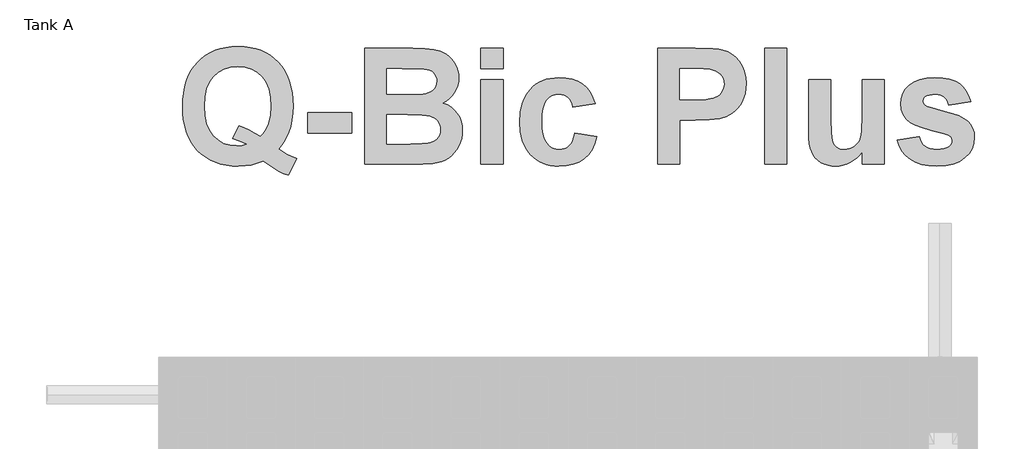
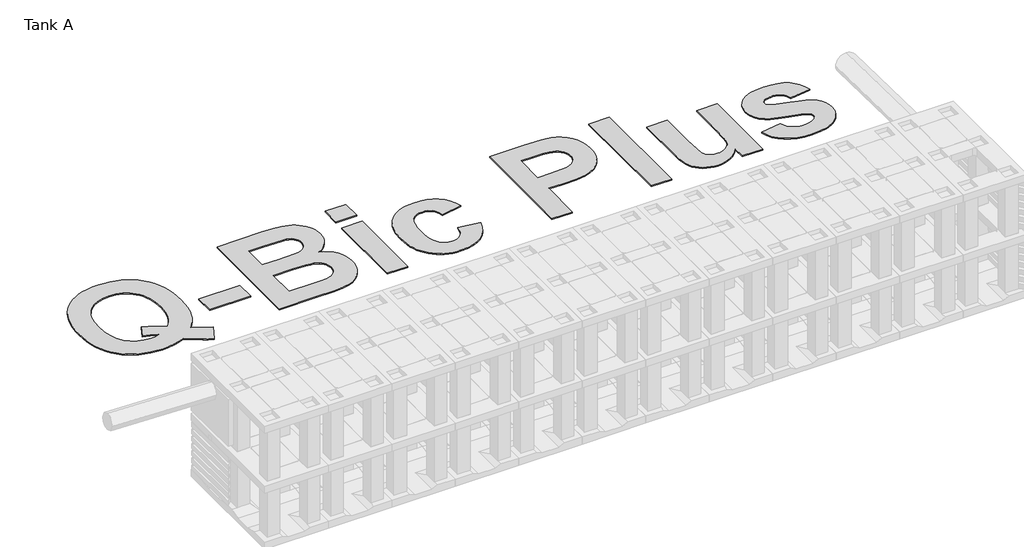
# One storey, part 6 of 6: 1 proxy.
"""IFC4 building model written with IfcOpenShell, lengths in millimetres."""

from ifc_helpers import new_model, si_unit, frame, origin, place, context, project, spatial, polyline, outline, extrude, element, save

model = new_model("IFC4")

# Units and contexts
model_context = context("Model", 3, world=origin())
ifc_project = project(units=[si_unit("LENGTHUNIT", "METRE", prefix="MILLI")], contexts=[model_context])

# Site, building, storey
site = spatial("IfcSite", under=ifc_project)
building = spatial("IfcBuilding", under=site)
storey = spatial("IfcBuildingStorey", under=building, Name="Tank A", Elevation=-2300.0)

# Proxy
placement = place(None, origin())
element("IfcBuildingElementProxy", 1, Name="Arial", ObjectType="Arial", at=placement, inside=storey, context=model_context, shape_type="SweptSolid", body=[
    extrude(outline(polyline([(3539.706878, 11795.5070729), (3616.7577181, 11747.1130724), (3700.1345714, 11709.7263347), (3626.2467378, 11563.9749918), (3581.3953046, 11579.6635044), (3537.4295133, 11600.4128275), (3404.0771562, 11688.21789), (3353.7853517, 11669.2872956), (3300.8366217, 11655.7654426), (3245.2309661, 11647.6523307), (3186.9683851, 11644.9479601), (3130.9634, 11647.1067121), (3078.0818838, 11653.582968), (3028.3238367, 11664.3767279), (2981.6892585, 11679.4879918), (2938.1781494, 11698.9167597), (2897.7905092, 11722.6630316), (2860.526338, 11750.7268074), (2826.3856358, 11783.1080872), (2795.8428536, 11819.3956801), (2769.3724424, 11859.1783952), (2746.9744021, 11902.4562326), (2728.6487328, 11949.2291923), (2714.3954344, 11999.4972743), (2704.214507, 12053.2604785), (2698.1059505, 12110.518805), (2696.0697651, 12171.2722537), (2698.1217656, 12231.853714), (2704.2777671, 12288.9756358), (2714.5377697, 12342.6380192), (2728.9017733, 12392.8408641), (2747.3697779, 12439.5841706), (2769.9417836, 12482.8679387), (2796.6177902, 12522.6921683), (2827.3977979, 12559.0568595), (2861.6926967, 12591.5270988), (2898.9133765, 12619.6679729), (2939.0598375, 12643.4794818), (2982.1320795, 12662.9616254), (3028.1301025, 12678.1144037), (3077.0539067, 12688.9378168), (3128.9034919, 12695.4318647), (3183.6788582, 12697.5965473), (3237.9679123, 12695.4417491), (3289.3707229, 12688.9773544), (3337.8872899, 12678.2033633), (3383.5176135, 12663.1197757), (3426.2616935, 12643.7265916), (3466.1195301, 12620.0238111), (3503.0911232, 12592.0114342), (3537.1764728, 12559.6894608), (3567.7785614, 12523.4888506), (3594.3003715, 12483.8405632), (3616.7419031, 12440.7445986), (3635.1031562, 12394.2009569), (3649.3841309, 12344.209638), (3659.5848271, 12290.770642), (3665.7052448, 12233.8839688), (3667.7453841, 12173.5496184), (3665.4047592, 12109.8782961), (3658.3828846, 12050.1923621), (3646.6797603, 11994.4918164), (3630.2953863, 11942.7766589), (3614.0059024, 11905.0103604), (3593.4779898, 11867.8766633), (3568.7116483, 11831.3755674), (3539.706878, 11795.5070729)]), holes=[polyline([(3378.5200631, 11906.5918637), (3400.8113519, 11930.9628294), (3420.1135995, 11957.7693101), (3436.4268059, 11987.0113058), (3449.7509711, 12018.6888167), (3460.1019101, 12052.8018425), (3467.495438, 12089.3503835), (3473.4102603, 12169.7540105), (3468.3810798, 12252.1266092), (3453.2935385, 12323.3812398), (3441.9778825, 12354.839317), (3428.1476362, 12383.5179022), (3411.8027998, 12409.4169954), (3392.9433731, 12432.5365966), (3349.594368, 12470.5638431), (3300.01424, 12497.726162), (3244.202989, 12514.0235534), (3182.1606151, 12519.4560172), (3120.2052239, 12514.063091), (3064.4018804, 12497.8843124), (3014.7505847, 12470.9196813), (2971.2513369, 12433.1691979), (2952.3029506, 12410.2374002), (2935.8810159, 12384.5854169), (2921.9855326, 12356.213248), (2910.6165009, 12325.1208934), (2895.4577919, 12254.7756272), (2890.4048889, 12173.5496184), (2895.3866242, 12091.1532972), (2910.3318303, 12019.827499), (2921.5407348, 11988.316046), (2935.240507, 11959.5722238), (2951.4311469, 11933.5960323), (2970.1126545, 11910.3874716), (3012.5918328, 11872.1941673), (3060.3216019, 11844.9132356), (3113.301962, 11828.5446766), (3171.532913, 11823.0884902), (3215.6252246, 11826.3780171), (3257.3136512, 11836.2465976), (3195.8248035, 11865.7258188), (3133.3237936, 11887.8668648), (3189.4987903, 12001.2290204), (3238.414687, 11983.4529234), (3286.2235313, 11961.7546984), (3332.9253234, 11936.1343451), (3378.5200631, 11906.5918637)])]), frame((0.0, 0.0, -2300.0), z_axis=(0.0, 0.0, 1.0), x_axis=(1.0, 0.0, 0.0)), (0.0, 0.0, 1.0), 10.0),
    extrude(outline(polyline([(3797.3021333, 11936.4506458), (3797.3021333, 12114.5911759), (4185.9723809, 12114.5911759), (4185.9723809, 11936.4506458), (3797.3021333, 11936.4506458)])), frame((0.0, 0.0, -2300.0), z_axis=(0.0, 0.0, 1.0), x_axis=(1.0, 0.0, 0.0)), (0.0, 0.0, 1.0), 10.0),
    extrude(outline(polyline([(4299.3345364, 12681.4019537), (4718.1166066, 12681.4019537), (4826.576102, 12678.8715484), (4903.4687917, 12671.2803327), (4961.351812, 12655.6234501), (4987.8736221, 12643.6435627), (5012.7822989, 12628.8960446), (5035.8801544, 12611.4362483), (5056.9695007, 12591.3195265), (5076.0503378, 12568.5458792), (5093.1226658, 12543.1153063), (5107.18223, 12515.5417965), (5117.2247759, 12486.3393384), (5123.2503034, 12455.5079318), (5125.2588126, 12423.0475769), (5122.8628351, 12387.8433137), (5115.6749027, 12354.0940336), (5103.6950153, 12321.7997365), (5086.9231729, 12290.9604224), (5066.039422, 12262.7305887), (5041.723809, 12238.2647329), (5013.9763338, 12217.5628549), (4982.7969966, 12200.6249547), (5022.492729, 12184.7150316), (5057.3174314, 12164.0605987), (5087.2711036, 12138.6616559), (5112.3537458, 12108.5182033), (5132.1699819, 12074.5633278), (5146.3244364, 12037.7301162), (5154.817109, 11998.0185687), (5157.6479999, 11955.4286852), (5155.6157682, 11921.0072662), (5149.519073, 11887.0761132), (5139.3579144, 11853.6352262), (5125.1322923, 11820.6846052), (5107.3878254, 11789.6238807), (5086.6701324, 11761.852683), (5062.9792132, 11737.3710121), (5036.3150678, 11716.1788681), (5006.5274534, 11698.5055689), (4973.4661272, 11684.5804324), (4937.1310892, 11674.4034588), (4897.5223394, 11667.9746479), (4809.3377161, 11663.4831786), (4648.024381, 11661.1425537), (4299.3345364, 11661.1425537), (4299.3345364, 12681.4019537)]), holes=[polyline([(4493.6696602, 12503.2614235), (4493.6696602, 12276.5371124), (4641.9514083, 12276.5371124), (4806.4277501, 12279.8266393), (4833.8589246, 12284.3022936), (4858.2061677, 12291.6562838), (4879.4694794, 12301.8886101), (4897.6488596, 12314.9992723), (4912.2065974, 12330.7036), (4922.6049815, 12348.7169224), (4928.844012, 12369.0392396), (4930.9236888, 12391.6705517), (4929.1286825, 12413.265979), (4923.7436639, 12432.758007), (4914.7686327, 12450.1466357), (4902.2035891, 12465.4318649), (4886.1117932, 12478.2657641), (4866.556505, 12488.3004024), (4843.5377247, 12495.53578), (4817.0554522, 12499.9718967), (4623.7324905, 12503.2614235), (4493.6696602, 12503.2614235)]), polyline([(4493.6696602, 12098.3965823), (4493.6696602, 11839.2830839), (4699.1385672, 11839.2830839), (4797.3182912, 11840.801327), (4851.4689637, 11845.3560565), (4875.1124378, 11850.7094451), (4896.4469171, 11858.9253547), (4915.4724017, 11870.0037852), (4932.1888914, 11883.9447367), (4945.8056347, 11900.6216888), (4955.5318799, 11919.9081214), (4961.367627, 11941.8040344), (4963.3128761, 11966.3094278), (4961.810448, 11987.2485313), (4957.3031636, 12006.5428714), (4949.791023, 12024.1924481), (4939.2740261, 12040.1972613), (4925.9261384, 12054.3517158), (4909.9213251, 12066.4502159), (4869.9409221, 12084.4793534), (4840.6514812, 12090.568141), (4798.0774127, 12094.917275), (4673.075393, 12098.3965823), (4493.6696602, 12098.3965823)])]), frame((0.0, 0.0, -2300.0), z_axis=(0.0, 0.0, 1.0), x_axis=(1.0, 0.0, 0.0)), (0.0, 0.0, 1.0), 10.0),
    extrude(outline(polyline([(5319.5939364, 11661.1425537), (5319.5939364, 12406.0938616), (5513.9290602, 12406.0938616), (5513.9290602, 11661.1425537), (5319.5939364, 11661.1425537)])), frame((0.0, 0.0, -2300.0), z_axis=(0.0, 0.0, 1.0), x_axis=(1.0, 0.0, 0.0)), (0.0, 0.0, 1.0), 10.0),
    extrude(outline(polyline([(5319.5939364, 12503.2614235), (5319.5939364, 12681.4019537), (5513.9290602, 12681.4019537), (5513.9290602, 12503.2614235), (5319.5939364, 12503.2614235)])), frame((0.0, 0.0, -2300.0), z_axis=(0.0, 0.0, 1.0), x_axis=(1.0, 0.0, 0.0)), (0.0, 0.0, 1.0), 10.0),
    extrude(outline(polyline([(6323.6587427, 12195.5641442), (6129.3236189, 12163.1749569), (6123.3218139, 12189.6414144), (6114.4258579, 12212.6127496), (6102.6357509, 12232.0889626), (6087.9514929, 12248.0700533), (6070.6103094, 12260.5243917), (6050.8494258, 12269.4203476), (6028.6688422, 12274.7579212), (6004.0685586, 12276.5371124), (5971.521221, 12273.2001405), (5942.4531906, 12263.1892247), (5916.8644674, 12246.504365), (5894.7550515, 12223.1455615), (5876.9315095, 12191.9741317), (5864.200408, 12151.8513933), (5856.5617471, 12102.7773464), (5854.0155268, 12044.7519908), (5856.6645448, 11980.2741018), (5864.6115989, 11926.0127241), (5877.8566889, 11881.9678576), (5896.3998149, 11848.1395023), (5919.4027802, 11823.0094151), (5946.027388, 11805.0593528), (5976.2736384, 11794.2893154), (6010.1415312, 11790.6993029), (6035.6274567, 11792.7473497), (6058.6936821, 11798.8914899), (6079.3402075, 11809.1317237), (6097.5670329, 11823.468051), (6113.3267131, 11842.8177437), (6126.5718032, 11868.0980737), (6137.302303, 11899.3090411), (6145.5182125, 11936.4506458), (6339.8533363, 11904.0614585), (6321.9428116, 11843.8457209), (6297.3108979, 11791.4900546), (6265.9575953, 11746.9944596), (6227.8829037, 11710.358936), (6182.9286728, 11681.741634), (6130.9367522, 11661.3007041), (6071.9071421, 11649.0361461), (6005.8398423, 11644.9479601), (5967.3045379, 11646.5571397), (5930.7737888, 11651.3846784), (5896.2475952, 11659.4305764), (5863.725957, 11670.6948336), (5833.2088742, 11685.1774499), (5804.6963469, 11702.8784254), (5778.1883749, 11723.7977602), (5753.6849584, 11747.9354541), (5731.6526407, 11774.9159001), (5712.5579654, 11804.3634913), (5696.4009325, 11836.2782276), (5683.1815419, 11870.6601091), (5672.8997936, 11907.5091356), (5665.5556877, 11946.8253073), (5659.680403, 12032.8590861), (5665.5161502, 12119.8654894), (5672.8108341, 12159.54343), (5683.0233915, 12196.6711965), (5696.1538226, 12231.248789), (5712.2021272, 12263.2762074), (5731.1683053, 12292.7534517), (5753.052357, 12319.6805221), (5777.4272764, 12343.7292564), (5803.8660576, 12364.5714929), (5832.3687006, 12382.2072314), (5862.9352054, 12396.636472), (5895.5655719, 12407.8592147), (5930.2598003, 12415.8754595), (5967.0178904, 12420.6852063), (6005.8398423, 12422.2884553), (6067.6608058, 12418.7854255), (6122.8078253, 12408.2763362), (6171.2809011, 12390.7611873), (6213.0800329, 12366.2399788), (6248.8378222, 12334.5545605), (6279.1868703, 12295.5467819), (6304.1271771, 12249.2166432), (6323.6587427, 12195.5641442)])), frame((0.0, 0.0, -2300.0), z_axis=(0.0, 0.0, 1.0), x_axis=(1.0, 0.0, 0.0)), (0.0, 0.0, 1.0), 10.0),
    extrude(outline(polyline([(6874.2749268, 11661.1425537), (6874.2749268, 12681.4019537), (7202.9745698, 12681.4019537), (7357.3925506, 12677.6063458), (7410.1673153, 12672.8618359), (7446.6525961, 12666.2195221), (7488.5228956, 12651.472004), (7526.8348127, 12630.0030969), (7561.5883474, 12601.8128008), (7592.7834998, 12566.9011158), (7618.5224657, 12525.853198), (7636.9074414, 12479.2542036), (7647.9384269, 12427.1041328), (7651.615422, 12369.4029854), (7649.45667, 12324.5752747), (7642.9804141, 12283.4640968), (7632.1866541, 12246.0694516), (7617.0753902, 12212.3913391), (7598.6350619, 12182.2795166), (7577.8541087, 12155.5837411), (7554.7325307, 12132.3040127), (7529.2703278, 12112.4403315), (7475.5941062, 12082.2336187), (7421.095503, 12064.2361113), (7329.6846131, 12053.4186288), (7204.7458535, 12049.8128013), (7068.6100506, 12049.8128013), (7068.6100506, 11661.1425537), (6874.2749268, 11661.1425537)]), holes=[polyline([(7068.6100506, 12503.2614235), (7068.6100506, 12227.9533315), (7189.3103814, 12227.9533315), (7298.0229173, 12231.7489394), (7336.1766841, 12236.4934492), (7363.5287834, 12243.135763), (7402.6868048, 12262.6515136), (7418.707433, 12275.6593781), (7432.3558064, 12290.8339021), (7443.2602716, 12307.7480798), (7451.0491752, 12325.9749052), (7455.7225175, 12345.5143783), (7457.2802982, 12366.3664991), (7455.0899161, 12391.6547366), (7448.51877, 12414.6339794), (7437.5668597, 12435.3042273), (7422.2341854, 12453.6654805), (7403.5645391, 12469.2591029), (7382.601713, 12481.6264586), (7359.3457072, 12490.7675476), (7333.7965216, 12496.6823699), (7274.3952582, 12501.6166601), (7175.1401119, 12503.2614235), (7068.6100506, 12503.2614235)])]), frame((0.0, 0.0, -2300.0), z_axis=(0.0, 0.0, 1.0), x_axis=(1.0, 0.0, 0.0)), (0.0, 0.0, 1.0), 10.0),
    extrude(outline(polyline([(7813.5613585, 11661.1425537), (7813.5613585, 12681.4019537), (8007.8964823, 12681.4019537), (8007.8964823, 11661.1425537), (7813.5613585, 11661.1425537)])), frame((0.0, 0.0, -2300.0), z_axis=(0.0, 0.0, 1.0), x_axis=(1.0, 0.0, 0.0)), (0.0, 0.0, 1.0), 10.0),
    extrude(outline(polyline([(8671.874822, 11661.1425537), (8671.874822, 11770.4560609), (8651.0068861, 11742.7876609), (8627.118279, 11718.2348224), (8600.2090005, 11696.7975453), (8570.2790509, 11678.4758297), (8538.3880371, 11663.8073868), (8505.5955664, 11653.3299275), (8471.9016389, 11647.0434519), (8437.3062546, 11644.9479601), (8402.6555176, 11647.0039143), (8369.8076943, 11653.1717772), (8338.7627848, 11663.4515485), (8309.520789, 11677.8432284), (8283.1413142, 11695.9593486), (8260.6839676, 11717.4124406), (8242.148749, 11742.2025047), (8227.5356587, 11770.3295406), (8216.4651357, 11802.9796759), (8208.5576192, 11841.3390381), (8203.8131094, 11885.4076272), (8202.2316061, 11935.1854431), (8202.2316061, 12406.0938616), (8396.5667299, 12406.0938616), (8396.5667299, 12061.705706), (8399.1920254, 11934.2049111), (8407.0679117, 11868.0031836), (8421.9340426, 11836.1200773), (8445.5300716, 11811.5751463), (8477.2550276, 11795.9182638), (8516.5079391, 11790.6993029), (8540.4123613, 11792.4389565), (8563.0357658, 11797.6579174), (8584.3781526, 11806.3561855), (8604.4395218, 11818.5337608), (8622.326324, 11833.2970939), (8637.1450098, 11849.7526356), (8648.8955792, 11867.9003858), (8657.5780322, 11887.7403446), (8663.8328777, 11915.8990106), (8668.3006245, 11959.0028826), (8671.874822, 12090.0462449), (8671.874822, 12406.0938616), (8866.2099458, 12406.0938616), (8866.2099458, 11661.1425537), (8671.874822, 11661.1425537)])), frame((0.0, 0.0, -2300.0), z_axis=(0.0, 0.0, 1.0), x_axis=(1.0, 0.0, 0.0)), (0.0, 0.0, 1.0), 10.0),
    extrude(outline(polyline([(8979.5721013, 11871.6722712), (9173.9072251, 11904.0614585), (9181.5696085, 11877.9033941), (9192.4108136, 11855.0981167), (9206.4308402, 11835.6456263), (9223.6296884, 11819.5459229), (9244.2762138, 11806.9255266), (9268.6392719, 11797.9109579), (9296.7188628, 11792.5022167), (9328.5149864, 11790.6993029), (9363.2922436, 11792.4231415), (9393.4831414, 11797.5946573), (9419.0876796, 11806.2138502), (9440.1058582, 11818.2807202), (9451.1763812, 11828.7186419), (9459.0838977, 11840.801327), (9463.8284075, 11854.5287756), (9465.4099108, 11869.9009875), (9462.0571238, 11890.0177093), (9451.9987629, 11906.3388232), (9429.0353352, 11919.6867109), (9388.485591, 11931.8959163), (9284.1221891, 11957.2948591), (9200.792781, 11981.6183796), (9138.4973665, 12004.8664779), (9097.2359458, 12027.039154), (9059.9282833, 12060.0767577), (9033.2799529, 12098.9659235), (9017.2909547, 12143.7066514), (9011.9612886, 12194.2989415), (9016.5318331, 12240.5895427), (9030.2434666, 12283.052906), (9053.0961891, 12321.6890312), (9085.0900006, 12356.4979186), (9126.699352, 12385.2812784), (9178.3986944, 12405.8408211), (9240.1880278, 12418.1765467), (9312.0673522, 12422.2884553), (9380.4989994, 12418.9672984), (9439.536517, 12409.0038277), (9489.1799052, 12392.3980432), (9529.4291638, 12369.1499449), (9562.213727, 12339.386053), (9589.4630286, 12303.2328879), (9611.1770687, 12260.6904495), (9627.3558473, 12211.7587378), (9433.0207235, 12179.3695505), (9418.7239338, 12220.9314569), (9408.254382, 12237.5846865), (9395.5707257, 12251.4861004), (9380.325034, 12262.4459181), (9362.1693763, 12270.2743594), (9341.1037525, 12274.9714242), (9317.1281627, 12276.5371124), (9261.7755477, 12271.2232614), (9240.9787795, 12264.5809476), (9224.7683708, 12255.2817083), (9210.914402, 12237.821912), (9206.2964124, 12215.8073862), (9210.914402, 12196.7660867), (9224.7683708, 12180.6347532), (9244.8139249, 12170.0228661), (9280.1526159, 12157.4182849), (9396.7094081, 12126.2310401), (9464.7219569, 12107.6167464), (9521.6165376, 12086.9464985), (9567.3931502, 12064.2202963), (9602.0517947, 12039.4381398), (9627.2925872, 12010.670595), (9645.3217246, 11976.7473495), (9656.1392071, 11937.6684033), (9659.7450346, 11893.4337564), (9654.5181662, 11844.2410967), (9638.8375612, 11798.6384494), (9612.7032194, 11756.6258146), (9576.1151408, 11718.2031923), (9553.9523492, 11701.0339972), (9529.278921, 11686.1540282), (9472.4001553, 11663.2617681), (9405.4788438, 11649.5264121), (9328.5149864, 11644.9479601), (9258.0036623, 11648.759383), (9195.2575195, 11660.1936518), (9140.2765577, 11679.2507664), (9093.0607771, 11705.9307268), (9053.4678424, 11739.1581108), (9021.3554181, 11777.8574962), (8996.7235044, 11822.028883), (8979.5721013, 11871.6722712)])), frame((0.0, 0.0, -2300.0), z_axis=(0.0, 0.0, 1.0), x_axis=(1.0, 0.0, 0.0)), (0.0, 0.0, 1.0), 10.0),
])

save(model, "model.ifc")
